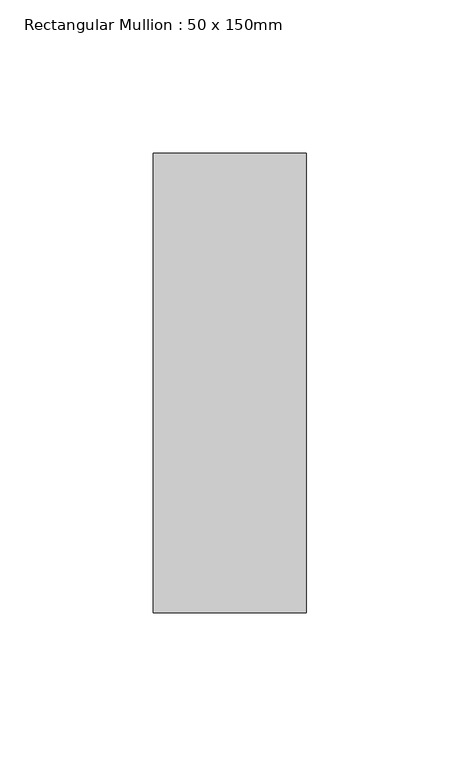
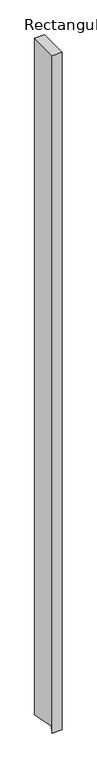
"""IFC4 building model written with IfcOpenShell, lengths in millimetres: member geometry, Rectangular Mullion : 50 x 150mm."""

import ifcopenshell
import ifcopenshell.guid

model = None  # the IFC model being written
_history = None  # IfcOwnerHistory: only IFC2X3 demands one
_inside = {}  # id of a spatial element -> (the spatial element, [elements in it])
_under = {}  # id of a project, library or spatial element -> (it, [spatial elements below it])
_declared = {}  # id of a project -> (the project, [libraries it declares])
_typed = {}  # id of a type object -> (the type object, [elements of that type])
_made_of = {}  # id of a material, layer set ... -> (it, [elements and type objects made of it])


def new_model(schema):
    """Start an empty IFC model of exactly this schema.

    Asked for "IFC4X3", IfcOpenShell would pick the latest addendum, in which some entities
    have other attributes; the version numbers below select the first issue.
    IFC2X3 requires an IfcOwnerHistory on every rooted entity: one is made here for all.
    """
    global model, _history
    if schema == "IFC4X3":
        model = ifcopenshell.file(schema_version=(4, 3, 0, 0))
    else:
        model = ifcopenshell.file(schema=schema)
    _inside.clear()
    _under.clear()
    _declared.clear()
    _typed.clear()
    _made_of.clear()
    _history = None
    if model.schema == "IFC2X3":
        org = make("IfcOrganization", Name="unknown")
        user = make(
            "IfcPersonAndOrganization",
            ThePerson=make("IfcPerson", FamilyName="unknown"),
            TheOrganization=org,
        )
        app = make(
            "IfcApplication",
            ApplicationDeveloper=org,
            Version="unknown",
            ApplicationFullName="unknown",
            ApplicationIdentifier="unknown",
        )
        _history = make(
            "IfcOwnerHistory",
            OwningUser=user,
            OwningApplication=app,
            ChangeAction="ADDED",
            CreationDate=0,
        )
    return model


def make(cls, **values):
    """One entity of the class cls with the attributes given. An attribute that is None is left unset."""
    return model.create_entity(
        cls, **{name: value for name, value in values.items() if value is not None}
    )


def rooted(cls, **values):
    """An entity with a GlobalId (a new one), such as an element, a storey or a relation."""
    return make(cls, GlobalId=ifcopenshell.guid.new(), OwnerHistory=_history, **values)


def si_unit(unit_type, name, prefix=None):
    """IfcSIUnit, for example si_unit("LENGTHUNIT", "METRE", prefix="MILLI")."""
    return make("IfcSIUnit", UnitType=unit_type, Prefix=prefix, Name=name)


def assignment(units):
    """IfcUnitAssignment: the units of a project."""
    return None if units is None else make("IfcUnitAssignment", Units=units)


def point(xyz):
    """IfcCartesianPoint."""
    return None if xyz is None else make("IfcCartesianPoint", Coordinates=xyz)


def direction(xyz):
    """IfcDirection."""
    return None if xyz is None else make("IfcDirection", DirectionRatios=xyz)


def frame(location, z_axis=None, x_axis=None):
    """IfcAxis2Placement3D, a coordinate frame: its origin and axes. An axis left out is left unset."""
    return make(
        "IfcAxis2Placement3D",
        Location=point(location),
        Axis=direction(z_axis),
        RefDirection=direction(x_axis),
    )


def origin():
    """The frame at (0, 0, 0) with its axes left unset."""
    return frame((0.0, 0.0, 0.0))


def place(relative_to, where):
    """IfcLocalPlacement: puts the frame where relative to a parent placement (None: the world)."""
    return make(
        "IfcLocalPlacement", PlacementRelTo=relative_to, RelativePlacement=where
    )


def context(
    kind, dimensions, precision=None, world=None, true_north=None, identifier=None
):
    """IfcGeometricRepresentationContext, for example the 3D "Model" context."""
    return make(
        "IfcGeometricRepresentationContext",
        ContextIdentifier=identifier,
        ContextType=kind,
        CoordinateSpaceDimension=dimensions,
        Precision=precision,
        WorldCoordinateSystem=world,
        TrueNorth=true_north,
    )


def project(units=None, contexts=None):
    """IfcProject with its units and contexts."""
    return rooted(
        "IfcProject",
        Name="project",
        RepresentationContexts=contexts,
        UnitsInContext=assignment(units),
    )


def spatial(cls, under=None, at=None, **own):
    """A site, building, storey or space (cls), placed at a placement, below another one or the project."""
    s = rooted(cls, ObjectPlacement=at, **own)
    if under is not None:
        _under.setdefault(under.id(), (under, []))[1].append(s)
    return s


def polyline(points):
    """IfcPolyline through the points."""
    return make("IfcPolyline", Points=[point(p) for p in points])


def outline(outer, holes=None, kind="AREA"):
    """IfcArbitraryClosedProfileDef: a profile drawn as a closed curve; with holes, ...WithVoids."""
    if holes is None:
        return make("IfcArbitraryClosedProfileDef", ProfileType=kind, OuterCurve=outer)
    return make(
        "IfcArbitraryProfileDefWithVoids",
        ProfileType=kind,
        OuterCurve=outer,
        InnerCurves=holes,
    )


def extrude(swept, where, along, depth):
    """IfcExtrudedAreaSolid: the profile swept, set in the frame where, extruded along a direction by depth."""
    return make(
        "IfcExtrudedAreaSolid",
        SweptArea=swept,
        Position=where,
        ExtrudedDirection=direction(along),
        Depth=depth,
    )


def shape(context_of_items, identifier, shape_type, items):
    """IfcShapeRepresentation: the items that make up one representation, for example the "Body"."""
    return make(
        "IfcShapeRepresentation",
        ContextOfItems=context_of_items,
        RepresentationIdentifier=identifier,
        RepresentationType=shape_type,
        Items=items,
    )


def source(mapping_origin, context_of_items, identifier, shape_type, items):
    """IfcRepresentationMap: a shape defined once, which mapped items show again and again."""
    return make(
        "IfcRepresentationMap",
        MappingOrigin=mapping_origin,
        MappedRepresentation=shape(context_of_items, identifier, shape_type, items),
    )


def transform(
    local_origin,
    x_axis=None,
    y_axis=None,
    z_axis=None,
    scale=None,
    scale2=None,
    scale3=None,
    uniform=True,
):
    """IfcCartesianTransformationOperator3D, or its non-uniform kind. x_axis, y_axis, z_axis: its Axis1, 2, 3."""
    if uniform:
        return make(
            "IfcCartesianTransformationOperator3D",
            Axis1=direction(x_axis),
            Axis2=direction(y_axis),
            LocalOrigin=point(local_origin),
            Scale=scale,
            Axis3=direction(z_axis),
        )
    return make(
        "IfcCartesianTransformationOperator3DnonUniform",
        Axis1=direction(x_axis),
        Axis2=direction(y_axis),
        LocalOrigin=point(local_origin),
        Scale=scale,
        Axis3=direction(z_axis),
        Scale2=scale2,
        Scale3=scale3,
    )


def mapped(mapping_source, mapping_target):
    """IfcMappedItem: shows the shape of a source again, moved by a transform."""
    return make(
        "IfcMappedItem", MappingSource=mapping_source, MappingTarget=mapping_target
    )


def made_of(thing, what):
    """Note that an element or type object is made of a material, layer set ...; save() writes the relation."""
    if what is not None:
        _made_of.setdefault(what.id(), (what, []))[1].append(thing)
    return thing


def element(
    cls,
    number,
    at=None,
    inside=None,
    cuts=None,
    type_object=None,
    material=None,
    context=None,
    identifier="Body",
    shape_type=None,
    held_by="IfcProductDefinitionShape",
    body=None,
    shapes=None,
    **own,
):
    """One element of the class cls, such as IfcWall. Its Tag is "e" and its number.

    at: its placement. inside: the storey or other place that contains it. cuts: it is an
    opening in that element (IfcRelVoidsElement). A single representation is given by context,
    identifier, shape_type and body (its items); several are given by shapes. held_by: the class
    of the entity that holds the representations. save() writes the other relations.
    """
    e = rooted(cls, Tag="e%d" % number, ObjectPlacement=at, **own)
    if body is not None:
        shapes = [shape(context, identifier, shape_type, body)]
    if shapes is not None:
        e.Representation = make(held_by, Representations=shapes)
    if inside is not None:
        _inside.setdefault(inside.id(), (inside, []))[1].append(e)
    if cuts is not None:
        rooted(
            "IfcRelVoidsElement", RelatingBuildingElement=cuts, RelatedOpeningElement=e
        )
    if type_object is not None:
        _typed.setdefault(type_object.id(), (type_object, []))[1].append(e)
    return made_of(e, material)


def aggregate(whole, parts):
    """IfcRelAggregates: a whole, such as a stair, and the parts it consists of."""
    return rooted("IfcRelAggregates", RelatingObject=whole, RelatedObjects=parts)


def save(model, path):
    """Write the relations noted so far, then the file.

    IfcRelAggregates (storeys below a building ...), IfcRelContainedInSpatialStructure (elements
    in a storey), IfcRelDefinesByType, IfcRelAssociatesMaterial and IfcRelDeclares: one each for
    every whole, place, type object, material and project.
    """
    for whole, parts in _under.values():
        aggregate(whole, parts)
    for where, things in _inside.values():
        rooted(
            "IfcRelContainedInSpatialStructure",
            RelatedElements=things,
            RelatingStructure=where,
        )
    for kind, things in _typed.values():
        rooted("IfcRelDefinesByType", RelatedObjects=things, RelatingType=kind)
    for what, things in _made_of.values():
        rooted("IfcRelAssociatesMaterial", RelatedObjects=things, RelatingMaterial=what)
    for by, libraries in _declared.values():
        rooted("IfcRelDeclares", RelatingContext=by, RelatedDefinitions=libraries)
    model.write(path)


def rectangular_mullion_50_x_150mm_f682c31f(model_context):
    return source(origin(), model_context, "Body", "SweptSolid", [
        extrude(outline(polyline([(-75.0, 0.0), (75.0, 0.0), (75.0, -3544.982063), (-69.2621187, -3518.533318), (-75.0, -3549.8300358), (-75.0, 0.0)])), frame((-50.0, 0.0, 0.0), z_axis=(1.0, 0.0, 0.0), x_axis=(0.0, 1.0, 0.0)), (0.0, 0.0, 1.0), 50.0),
    ])


if __name__ == "__main__":
    model = new_model("IFC4")
    model_context = context("Model", 3, world=origin())
    ifc_project = project(units=[si_unit("LENGTHUNIT", "METRE", prefix="MILLI")], contexts=[model_context])
    site = spatial("IfcSite", under=ifc_project)
    building = spatial("IfcBuilding", under=site)
    placement = place(None, origin())
    rectangular_mullion_50_x_150mm_shape = rectangular_mullion_50_x_150mm_f682c31f(model_context)
    element("IfcMember", 1, ObjectType="Rectangular Mullion : 50 x 150mm", at=placement, inside=building, context=model_context, shape_type="MappedRepresentation", body=[
        mapped(rectangular_mullion_50_x_150mm_shape, transform((0.0, 0.0, 0.0), x_axis=(1.0, 0.0, 0.0), y_axis=(0.0, 1.0, 0.0), z_axis=(0.0, 0.0, 1.0))),
    ])
    save(model, "model.ifc")
